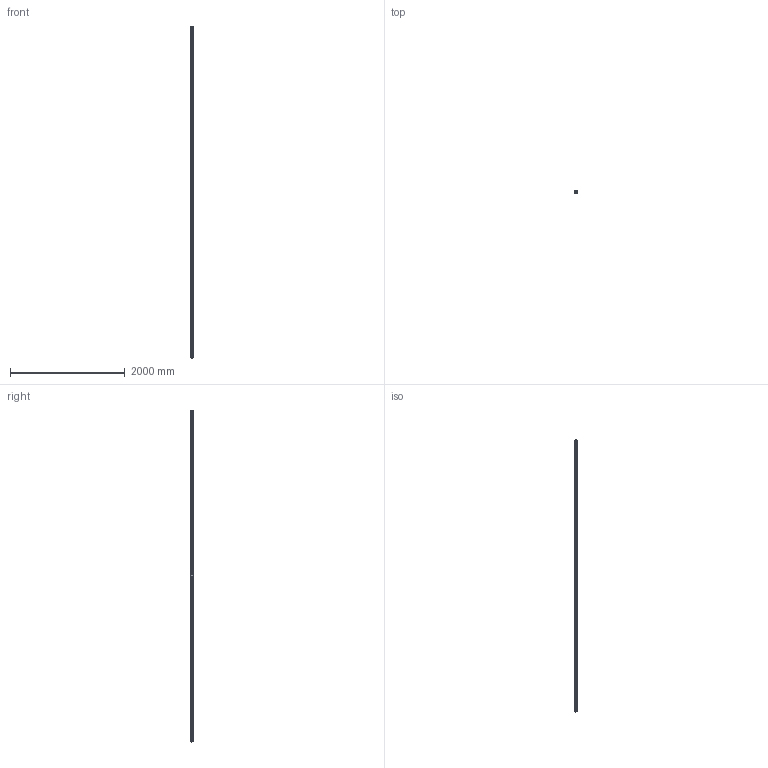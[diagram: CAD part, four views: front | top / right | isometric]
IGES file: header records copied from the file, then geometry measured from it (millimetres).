
Start section: 3D InterOp IGES (v. 2019 1.0.2), Spatial Corp. Copyright (c) 1999-2017.
Global section: file name: R1605.6_size45.igs; native system: Spatial Corp.; preprocessor: 3D InterOp GENERIC/IGES 3.0; author: Noname; organization: Noname; date: 20220629.163511; units: millimetre
Bounding box: 45 x 40.88 x 5783.01 mm (x, y, z)
Surface area: 1609636.8 mm2 (no closed solid volume)
Topology: 0 solids, 0 shells, 1483 faces, 8108 edges, 8104 vertices
Faces by surface type: extrusion 1139, revolution 344
